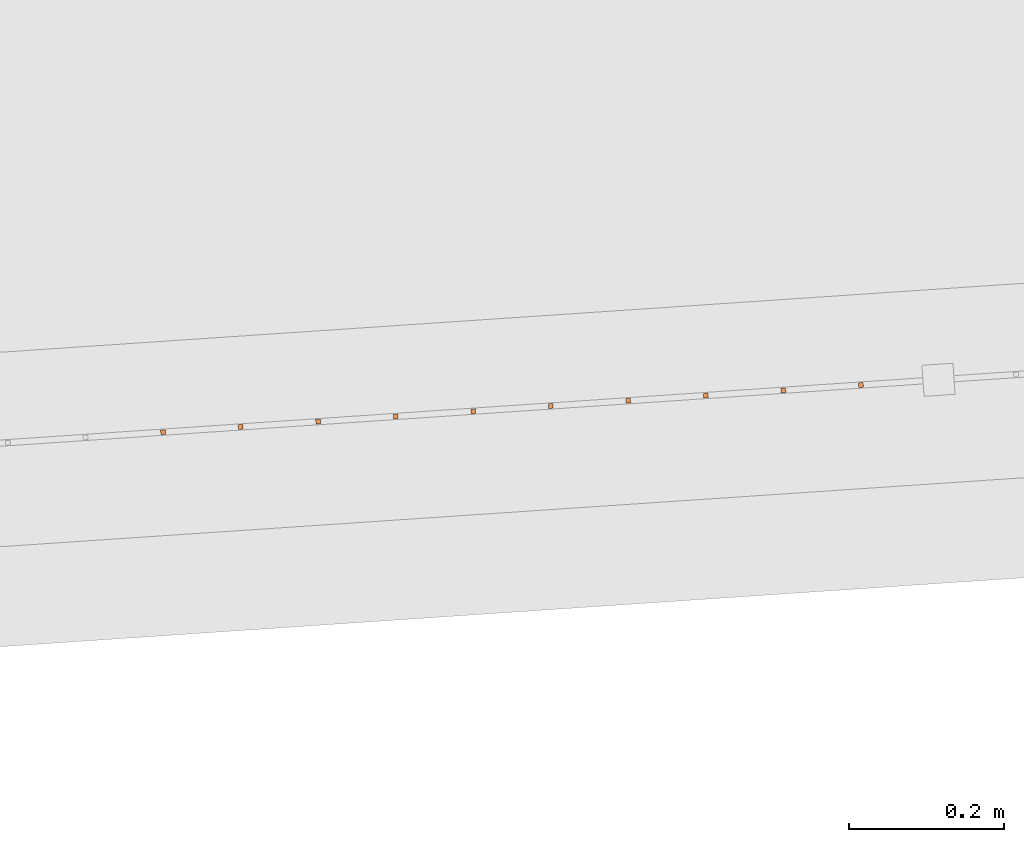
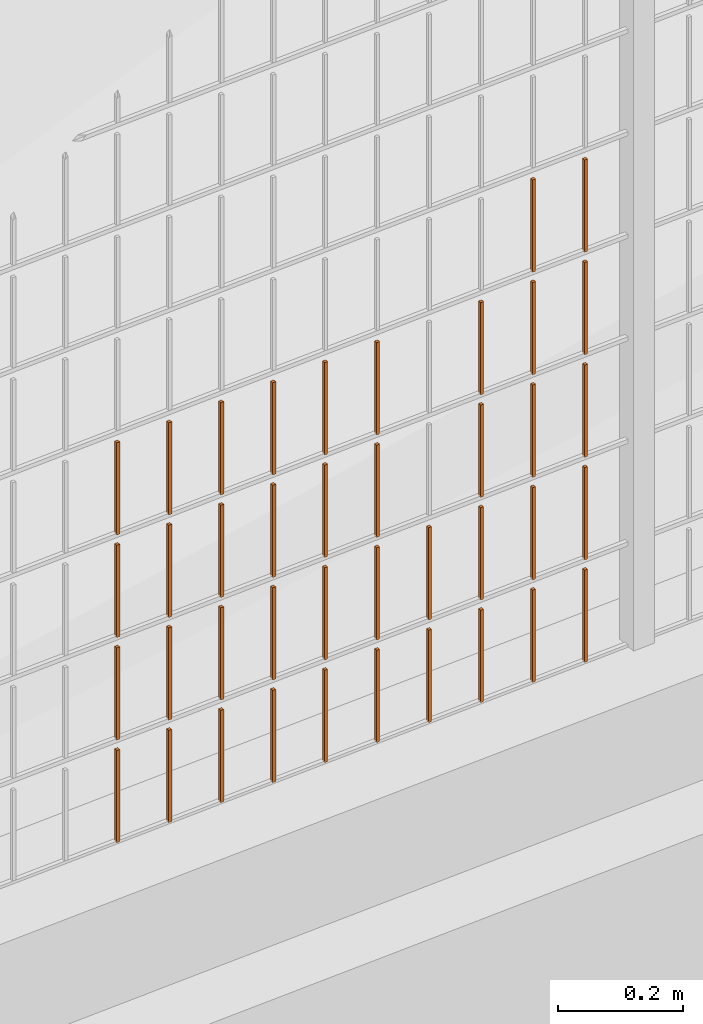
# One storey, part 80 of 1809: 40 proxies, 1 element without a shape of its own.
"""IFC2X3 building model written with IfcOpenShell, lengths in millimetres."""

from ifc_helpers import new_model, entity, si_unit, converted_unit, derived_unit, money_unit, direction, frame, origin_with_axes, place, context, subcontext, project, spatial, faceted_brep, source, transform, mapped, material, type_object, element, aggregate, save


model = new_model("IFC2X3")

# Units and contexts
model_context = context("Model", 3, precision=0.01, world=origin_with_axes(), true_north=direction((0.0, 1.0)))
body_context = subcontext(model_context, "Body", "Model", "MODEL_VIEW")
ifc_project = project(units=[si_unit("LENGTHUNIT", "METRE", prefix="MILLI"), si_unit("AREAUNIT", "SQUARE_METRE"), si_unit("VOLUMEUNIT", "CUBIC_METRE"), converted_unit("PLANEANGLEUNIT", "DEGREE", entity("IfcPlaneAngleMeasure", 0.0174532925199), si_unit("PLANEANGLEUNIT", "RADIAN"), dimensions=[0, 0, 0, 0, 0, 0, 0]), si_unit("SOLIDANGLEUNIT", "STERADIAN"), money_unit("EUR"), converted_unit("TIMEUNIT", "Year", entity("IfcTimeMeasure", 31556926.0), si_unit("TIMEUNIT", "SECOND"), dimensions=[0, 0, 1, 0, 0, 0, 0]), si_unit("MASSUNIT", "GRAM", prefix="KILO"), si_unit("THERMODYNAMICTEMPERATUREUNIT", "DEGREE_CELSIUS"), si_unit("LUMINOUSINTENSITYUNIT", "LUMEN"), si_unit("ENERGYUNIT", "JOULE", prefix="MEGA"), derived_unit("THERMALCONDUCTANCEUNIT", [(si_unit("POWERUNIT", "WATT"), 1), (si_unit("LENGTHUNIT", "METRE"), -1), (si_unit("THERMODYNAMICTEMPERATUREUNIT", "KELVIN"), -1)]), derived_unit("SPECIFICHEATCAPACITYUNIT", [(si_unit("ENERGYUNIT", "JOULE"), 1), (si_unit("MASSUNIT", "GRAM", prefix="KILO"), -1), (si_unit("THERMODYNAMICTEMPERATUREUNIT", "KELVIN"), -1)]), derived_unit("MASSDENSITYUNIT", [(si_unit("MASSUNIT", "GRAM", prefix="KILO"), 1), (si_unit("VOLUMEUNIT", "CUBIC_METRE"), -1)])], contexts=[model_context])

# Site, building, storey
site_placement = place(None, origin_with_axes())
site = spatial("IfcSite", under=ifc_project, at=site_placement, Name="Politse- ja Piirivalveameti ning Päästeameti ühishoone", CompositionType="ELEMENT")
building_placement = place(site_placement, origin_with_axes())
building = spatial("IfcBuilding", under=site, at=building_placement, Name="Politse- ja Piirivalveameti ning Päästeameti ühishoone", CompositionType="ELEMENT")
storey_placement = place(building_placement, origin_with_axes())
storey = spatial("IfcBuildingStorey", under=building, at=storey_placement, Name="Esimene korrus", CompositionType="ELEMENT", Elevation=0.0)

# Proxies
building_element_proxy_type_1 = type_object("IfcBuildingElementProxyType", Name="Railing Type", PredefinedType="NOTDEFINED")
proxy_1_placement = place(storey_placement, frame((89252.001212, -29183.4766571, 203.661247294), z_axis=(0.0, 0.0, 1.0), x_axis=(1.0, 0.0, 0.0)))
proxy_1 = element("IfcBuildingElementProxy", 1, at=proxy_1_placement, inside=storey, type_object=building_element_proxy_type_1, Name="PIIRDEAED")
ifc_material = material(Name="ET-03_Raud")
building_element_proxy_type_2 = type_object("IfcBuildingElementProxyType", Name="IfcBuildingElementProxy", PredefinedType="NOTDEFINED")
shared_shape_1 = source(origin_with_axes(), body_context, "Body", "Brep", [
    faceted_brep([(3.0, 3.0, -0.000752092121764), (-3.0, 3.0, -0.000752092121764), (-3.0, 3.0, 179.99926046), (3.0, 3.0, 179.99926046), (3.0, -3.0, 0.000752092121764), (-3.0, -3.0, 0.000752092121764), (-3.0, -3.0, 180.000764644), (3.0, -3.0, 180.000764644)], [[[0, 1, 2, 3]], [[0, 4, 5, 1]], [[1, 5, 6, 2]], [[3, 2, 6, 7]], [[4, 0, 3, 7]], [[5, 4, 7, 6]]]),
])
proxy_2_placement = place(proxy_1_placement, frame((-102193.823991, -24200.5819066, 801.556283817), z_axis=(0.0, 0.0, 1.0), x_axis=(1.0, 0.0, 0.0)))
proxy_2 = element("IfcBuildingElementProxy", 2, at=proxy_2_placement, type_object=building_element_proxy_type_2, material=ifc_material, Name="BALUSTER - 001", context=body_context, shape_type="MappedRepresentation", body=[
    mapped(shared_shape_1, transform((0.0, 0.0, 0.0), x_axis=(-0.0673926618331, 0.997726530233, 0.0), y_axis=(-0.997726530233, -0.0673926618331, 0.0), z_axis=(0.0, 0.0, 1.0))),
])
shared_shape_2 = source(origin_with_axes(), body_context, "Body", "Brep", [
    faceted_brep([(3.0, 3.0, -0.000752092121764), (-3.0, 3.0, -0.000752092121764), (-3.0, 3.0, 179.99926046), (3.0, 3.0, 179.99926046), (3.0, -3.0, 0.000752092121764), (-3.0, -3.0, 0.000752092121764), (-3.0, -3.0, 180.000764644), (3.0, -3.0, 180.000764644)], [[[0, 1, 2, 3]], [[0, 4, 5, 1]], [[1, 5, 6, 2]], [[3, 2, 6, 7]], [[4, 0, 3, 7]], [[5, 4, 7, 6]]]),
])
proxy_3_placement = place(proxy_1_placement, frame((-102193.823991, -24200.5819066, 201.556283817), z_axis=(0.0, 0.0, 1.0), x_axis=(1.0, 0.0, 0.0)))
proxy_3 = element("IfcBuildingElementProxy", 3, at=proxy_3_placement, type_object=building_element_proxy_type_2, material=ifc_material, Name="BALUSTER - 001", context=body_context, shape_type="MappedRepresentation", body=[
    mapped(shared_shape_2, transform((0.0, 0.0, 0.0), x_axis=(-0.0673926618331, 0.997726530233, 0.0), y_axis=(-0.997726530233, -0.0673926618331, 0.0), z_axis=(0.0, 0.0, 1.0))),
])
proxy_4_placement = place(proxy_1_placement, frame((-102692.687256, -24234.2782375, 201.43093513), z_axis=(0.0, 0.0, 1.0), x_axis=(1.0, 0.0, 0.0)))
proxy_4 = element("IfcBuildingElementProxy", 4, at=proxy_4_placement, type_object=building_element_proxy_type_2, material=ifc_material, Name="BALUSTER - 001", context=body_context, shape_type="MappedRepresentation", body=[
    mapped(shared_shape_2, transform((0.0, 0.0, 0.0), x_axis=(-0.0673926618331, 0.997726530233, 0.0), y_axis=(-0.997726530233, -0.0673926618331, 0.0), z_axis=(0.0, 0.0, 1.0))),
])
proxy_5_placement = place(proxy_1_placement, frame((-102792.459909, -24241.0175037, 201.405865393), z_axis=(0.0, 0.0, 1.0), x_axis=(1.0, 0.0, 0.0)))
proxy_5 = element("IfcBuildingElementProxy", 5, at=proxy_5_placement, type_object=building_element_proxy_type_2, material=ifc_material, Name="BALUSTER - 001", context=body_context, shape_type="MappedRepresentation", body=[
    mapped(shared_shape_2, transform((0.0, 0.0, 0.0), x_axis=(-0.0673926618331, 0.997726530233, 0.0), y_axis=(-0.997726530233, -0.0673926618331, 0.0), z_axis=(0.0, 0.0, 1.0))),
])
proxy_6_placement = place(proxy_1_placement, frame((-102193.823991, -24200.5819066, 401.556283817), z_axis=(0.0, 0.0, 1.0), x_axis=(1.0, 0.0, 0.0)))
proxy_6 = element("IfcBuildingElementProxy", 6, at=proxy_6_placement, type_object=building_element_proxy_type_2, material=ifc_material, Name="BALUSTER - 001", context=body_context, shape_type="MappedRepresentation", body=[
    mapped(shared_shape_2, transform((0.0, 0.0, 0.0), x_axis=(-0.0673926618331, 0.997726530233, 0.0), y_axis=(-0.997726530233, -0.0673926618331, 0.0), z_axis=(0.0, 0.0, 1.0))),
])
proxy_7_placement = place(proxy_1_placement, frame((-102592.914603, -24227.5389714, 401.456004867), z_axis=(0.0, 0.0, 1.0), x_axis=(1.0, 0.0, 0.0)))
proxy_7 = element("IfcBuildingElementProxy", 7, at=proxy_7_placement, type_object=building_element_proxy_type_2, material=ifc_material, Name="BALUSTER - 001", context=body_context, shape_type="MappedRepresentation", body=[
    mapped(shared_shape_2, transform((0.0, 0.0, 0.0), x_axis=(-0.0673926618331, 0.997726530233, 0.0), y_axis=(-0.997726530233, -0.0673926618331, 0.0), z_axis=(0.0, 0.0, 1.0))),
])
proxy_8_placement = place(proxy_1_placement, frame((-102692.687256, -24234.2782375, 401.43093513), z_axis=(0.0, 0.0, 1.0), x_axis=(1.0, 0.0, 0.0)))
proxy_8 = element("IfcBuildingElementProxy", 8, at=proxy_8_placement, type_object=building_element_proxy_type_2, material=ifc_material, Name="BALUSTER - 001", context=body_context, shape_type="MappedRepresentation", body=[
    mapped(shared_shape_2, transform((0.0, 0.0, 0.0), x_axis=(-0.0673926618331, 0.997726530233, 0.0), y_axis=(-0.997726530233, -0.0673926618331, 0.0), z_axis=(0.0, 0.0, 1.0))),
])
proxy_9_placement = place(proxy_1_placement, frame((-102592.914603, -24227.5389714, 601.456004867), z_axis=(0.0, 0.0, 1.0), x_axis=(1.0, 0.0, 0.0)))
proxy_9 = element("IfcBuildingElementProxy", 9, at=proxy_9_placement, type_object=building_element_proxy_type_2, material=ifc_material, Name="BALUSTER - 001", context=body_context, shape_type="MappedRepresentation", body=[
    mapped(shared_shape_2, transform((0.0, 0.0, 0.0), x_axis=(-0.0673926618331, 0.997726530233, 0.0), y_axis=(-0.997726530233, -0.0673926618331, 0.0), z_axis=(0.0, 0.0, 1.0))),
])
proxy_10_placement = place(proxy_1_placement, frame((-102692.687256, -24234.2782375, 601.43093513), z_axis=(0.0, 0.0, 1.0), x_axis=(1.0, 0.0, 0.0)))
proxy_10 = element("IfcBuildingElementProxy", 10, at=proxy_10_placement, type_object=building_element_proxy_type_2, material=ifc_material, Name="BALUSTER - 001", context=body_context, shape_type="MappedRepresentation", body=[
    mapped(shared_shape_2, transform((0.0, 0.0, 0.0), x_axis=(-0.0673926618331, 0.997726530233, 0.0), y_axis=(-0.997726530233, -0.0673926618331, 0.0), z_axis=(0.0, 0.0, 1.0))),
])
proxy_11_placement = place(proxy_1_placement, frame((-102792.459909, -24241.0175037, 601.405865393), z_axis=(0.0, 0.0, 1.0), x_axis=(1.0, 0.0, 0.0)))
proxy_11 = element("IfcBuildingElementProxy", 11, at=proxy_11_placement, type_object=building_element_proxy_type_2, material=ifc_material, Name="BALUSTER - 001", context=body_context, shape_type="MappedRepresentation", body=[
    mapped(shared_shape_2, transform((0.0, 0.0, 0.0), x_axis=(-0.0673926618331, 0.997726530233, 0.0), y_axis=(-0.997726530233, -0.0673926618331, 0.0), z_axis=(0.0, 0.0, 1.0))),
])
shared_shape_3 = source(origin_with_axes(), body_context, "Body", "Brep", [
    faceted_brep([(3.0, 3.0, -0.000752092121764), (-3.0, 3.0, -0.000752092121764), (-3.0, 3.0, 179.99926046), (3.0, 3.0, 179.99926046), (3.0, -3.0, 0.000752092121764), (-3.0, -3.0, 0.000752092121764), (-3.0, -3.0, 180.000764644), (3.0, -3.0, 180.000764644)], [[[0, 1, 2, 3]], [[0, 4, 5, 1]], [[1, 5, 6, 2]], [[3, 2, 6, 7]], [[4, 0, 3, 7]], [[5, 4, 7, 6]]]),
])
proxy_12_placement = place(proxy_1_placement, frame((-102592.914603, -24227.5389714, 1.45600486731), z_axis=(0.0, 0.0, 1.0), x_axis=(1.0, 0.0, 0.0)))
proxy_12 = element("IfcBuildingElementProxy", 12, at=proxy_12_placement, type_object=building_element_proxy_type_2, material=ifc_material, Name="BALUSTER - 001", context=body_context, shape_type="MappedRepresentation", body=[
    mapped(shared_shape_3, transform((0.0, 0.0, 0.0), x_axis=(-0.0673926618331, 0.997726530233, 0.0), y_axis=(-0.997726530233, -0.0673926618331, 0.0), z_axis=(0.0, 0.0, 1.0))),
])
shared_shape_4 = source(origin_with_axes(), body_context, "Body", "Brep", [
    faceted_brep([(3.0, 3.0, -0.000752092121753), (-3.0, 3.0, -0.000752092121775), (-3.0, 3.0, 179.99926046), (3.0, 3.0, 179.99926046), (3.0, -3.0, 0.000752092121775), (-3.0, -3.0, 0.000752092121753), (-3.0, -3.0, 180.000764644), (3.0, -3.0, 180.000764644)], [[[0, 1, 2, 3]], [[0, 4, 5, 1]], [[1, 5, 6, 2]], [[3, 2, 6, 7]], [[4, 0, 3, 7]], [[5, 4, 7, 6]]]),
])
proxy_13_placement = place(proxy_1_placement, frame((-102393.369297, -24214.060439, 1.5061443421), z_axis=(0.0, 0.0, 1.0), x_axis=(1.0, 0.0, 0.0)))
proxy_13 = element("IfcBuildingElementProxy", 13, at=proxy_13_placement, type_object=building_element_proxy_type_2, material=ifc_material, Name="BALUSTER - 001", context=body_context, shape_type="MappedRepresentation", body=[
    mapped(shared_shape_4, transform((0.0, 0.0, 0.0), x_axis=(-0.0673926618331, 0.997726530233, 0.0), y_axis=(-0.997726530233, -0.0673926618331, 0.0), z_axis=(0.0, 0.0, 1.0))),
])
proxy_14_placement = place(proxy_1_placement, frame((-103091.777868, -24261.2353023, 1.33065618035), z_axis=(0.0, 0.0, 1.0), x_axis=(1.0, 0.0, 0.0)))
proxy_14 = element("IfcBuildingElementProxy", 14, at=proxy_14_placement, type_object=building_element_proxy_type_2, material=ifc_material, Name="BALUSTER - 001", context=body_context, shape_type="MappedRepresentation", body=[
    mapped(shared_shape_4, transform((0.0, 0.0, 0.0), x_axis=(-0.0673926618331, 0.997726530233, 0.0), y_axis=(-0.997726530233, -0.0673926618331, 0.0), z_axis=(0.0, 0.0, 1.0))),
])
proxy_15_placement = place(proxy_1_placement, frame((-103091.777868, -24261.2353023, 201.33065618), z_axis=(0.0, 0.0, 1.0), x_axis=(1.0, 0.0, 0.0)))
proxy_15 = element("IfcBuildingElementProxy", 15, at=proxy_15_placement, type_object=building_element_proxy_type_2, material=ifc_material, Name="BALUSTER - 001", context=body_context, shape_type="MappedRepresentation", body=[
    mapped(shared_shape_4, transform((0.0, 0.0, 0.0), x_axis=(-0.0673926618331, 0.997726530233, 0.0), y_axis=(-0.997726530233, -0.0673926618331, 0.0), z_axis=(0.0, 0.0, 1.0))),
])
shared_shape_5 = source(origin_with_axes(), body_context, "Body", "Brep", [
    faceted_brep([(3.0, 3.0, -0.000752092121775), (-3.0, 3.0, -0.000752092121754), (-3.0, 3.0, 179.99926046), (3.0, 3.0, 179.99926046), (3.0, -3.0, 0.000752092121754), (-3.0, -3.0, 0.000752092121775), (-3.0, -3.0, 180.000764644), (3.0, -3.0, 180.000764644)], [[[0, 1, 2, 3]], [[0, 4, 5, 1]], [[1, 5, 6, 2]], [[3, 2, 6, 7]], [[4, 0, 3, 7]], [[5, 4, 7, 6]]]),
])
proxy_16_placement = place(proxy_1_placement, frame((-102892.232562, -24247.7567699, 401.380795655), z_axis=(0.0, 0.0, 1.0), x_axis=(1.0, 0.0, 0.0)))
proxy_16 = element("IfcBuildingElementProxy", 16, at=proxy_16_placement, type_object=building_element_proxy_type_2, material=ifc_material, Name="BALUSTER - 001", context=body_context, shape_type="MappedRepresentation", body=[
    mapped(shared_shape_5, transform((0.0, 0.0, 0.0), x_axis=(-0.0673926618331, 0.997726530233, 0.0), y_axis=(-0.997726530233, -0.0673926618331, 0.0), z_axis=(0.0, 0.0, 1.0))),
])
shared_shape_6 = source(origin_with_axes(), body_context, "Body", "Brep", [
    faceted_brep([(3.0, 3.0, -0.000752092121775), (-3.0, 3.0, -0.000752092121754), (-3.0, 3.0, 179.99926046), (3.0, 3.0, 179.99926046), (3.0, -3.0, 0.000752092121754), (-3.0, -3.0, 0.000752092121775), (-3.0, -3.0, 180.000764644), (3.0, -3.0, 180.000764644)], [[[0, 1, 2, 3]], [[0, 4, 5, 1]], [[1, 5, 6, 2]], [[3, 2, 6, 7]], [[4, 0, 3, 7]], [[5, 4, 7, 6]]]),
])
proxy_17_placement = place(proxy_1_placement, frame((-102892.232562, -24247.7567699, 601.380795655), z_axis=(0.0, 0.0, 1.0), x_axis=(1.0, 0.0, 0.0)))
proxy_17 = element("IfcBuildingElementProxy", 17, at=proxy_17_placement, type_object=building_element_proxy_type_2, material=ifc_material, Name="BALUSTER - 001", context=body_context, shape_type="MappedRepresentation", body=[
    mapped(shared_shape_6, transform((0.0, 0.0, 0.0), x_axis=(-0.0673926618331, 0.997726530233, 0.0), y_axis=(-0.997726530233, -0.0673926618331, 0.0), z_axis=(0.0, 0.0, 1.0))),
])
shared_shape_7 = source(origin_with_axes(), body_context, "Body", "Brep", [
    faceted_brep([(3.0, 3.0, -0.000752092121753), (-3.0, 3.0, -0.000752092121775), (-3.0, 3.0, 179.99926046), (3.0, 3.0, 179.99926046), (3.0, -3.0, 0.000752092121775), (-3.0, -3.0, 0.000752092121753), (-3.0, -3.0, 180.000764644), (3.0, -3.0, 180.000764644)], [[[0, 1, 2, 3]], [[0, 4, 5, 1]], [[1, 5, 6, 2]], [[3, 2, 6, 7]], [[4, 0, 3, 7]], [[5, 4, 7, 6]]]),
])
proxy_18_placement = place(proxy_1_placement, frame((-103091.777868, -24261.2353023, 401.33065618), z_axis=(0.0, 0.0, 1.0), x_axis=(1.0, 0.0, 0.0)))
proxy_18 = element("IfcBuildingElementProxy", 18, at=proxy_18_placement, type_object=building_element_proxy_type_2, material=ifc_material, Name="BALUSTER - 001", context=body_context, shape_type="MappedRepresentation", body=[
    mapped(shared_shape_7, transform((0.0, 0.0, 0.0), x_axis=(-0.0673926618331, 0.997726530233, 0.0), y_axis=(-0.997726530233, -0.0673926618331, 0.0), z_axis=(0.0, 0.0, 1.0))),
])
shared_shape_8 = source(origin_with_axes(), body_context, "Body", "Brep", [
    faceted_brep([(3.0, 3.0, -0.000752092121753), (-3.0, 3.0, -0.000752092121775), (-3.0, 3.0, 179.99926046), (3.0, 3.0, 179.99926046), (3.0, -3.0, 0.000752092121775), (-3.0, -3.0, 0.000752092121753), (-3.0, -3.0, 180.000764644), (3.0, -3.0, 180.000764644)], [[[0, 1, 2, 3]], [[0, 4, 5, 1]], [[1, 5, 6, 2]], [[3, 2, 6, 7]], [[4, 0, 3, 7]], [[5, 4, 7, 6]]]),
])
proxy_19_placement = place(proxy_1_placement, frame((-102293.596644, -24207.3211728, 801.531214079), z_axis=(0.0, 0.0, 1.0), x_axis=(1.0, 0.0, 0.0)))
proxy_19 = element("IfcBuildingElementProxy", 19, at=proxy_19_placement, type_object=building_element_proxy_type_2, material=ifc_material, Name="BALUSTER - 001", context=body_context, shape_type="MappedRepresentation", body=[
    mapped(shared_shape_8, transform((0.0, 0.0, 0.0), x_axis=(-0.0673926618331, 0.997726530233, 0.0), y_axis=(-0.997726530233, -0.0673926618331, 0.0), z_axis=(0.0, 0.0, 1.0))),
])
shared_shape_9 = source(origin_with_axes(), body_context, "Body", "Brep", [
    faceted_brep([(3.0, 3.0, -0.000752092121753), (-3.0, 3.0, -0.000752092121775), (-3.0, 3.0, 179.99926046), (3.0, 3.0, 179.99926046), (3.0, -3.0, 0.000752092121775), (-3.0, -3.0, 0.000752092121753), (-3.0, -3.0, 180.000764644), (3.0, -3.0, 180.000764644)], [[[0, 1, 2, 3]], [[0, 4, 5, 1]], [[1, 5, 6, 2]], [[3, 2, 6, 7]], [[4, 0, 3, 7]], [[5, 4, 7, 6]]]),
])
proxy_20_placement = place(proxy_1_placement, frame((-102293.596644, -24207.3211728, 1.53121407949), z_axis=(0.0, 0.0, 1.0), x_axis=(1.0, 0.0, 0.0)))
proxy_20 = element("IfcBuildingElementProxy", 20, at=proxy_20_placement, type_object=building_element_proxy_type_2, material=ifc_material, Name="BALUSTER - 001", context=body_context, shape_type="MappedRepresentation", body=[
    mapped(shared_shape_9, transform((0.0, 0.0, 0.0), x_axis=(-0.0673926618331, 0.997726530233, 0.0), y_axis=(-0.997726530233, -0.0673926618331, 0.0), z_axis=(0.0, 0.0, 1.0))),
])
shared_shape_10 = source(origin_with_axes(), body_context, "Body", "Brep", [
    faceted_brep([(3.0, 3.0, -0.000752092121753), (-3.0, 3.0, -0.000752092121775), (-3.0, 3.0, 179.99926046), (3.0, 3.0, 179.99926046), (3.0, -3.0, 0.000752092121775), (-3.0, -3.0, 0.000752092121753), (-3.0, -3.0, 180.000764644), (3.0, -3.0, 180.000764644)], [[[0, 1, 2, 3]], [[0, 4, 5, 1]], [[1, 5, 6, 2]], [[3, 2, 6, 7]], [[4, 0, 3, 7]], [[5, 4, 7, 6]]]),
])
proxy_21_placement = place(proxy_1_placement, frame((-102992.005215, -24254.4960361, 1.35572591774), z_axis=(0.0, 0.0, 1.0), x_axis=(1.0, 0.0, 0.0)))
proxy_21 = element("IfcBuildingElementProxy", 21, at=proxy_21_placement, type_object=building_element_proxy_type_2, material=ifc_material, Name="BALUSTER - 001", context=body_context, shape_type="MappedRepresentation", body=[
    mapped(shared_shape_10, transform((0.0, 0.0, 0.0), x_axis=(-0.0673926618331, 0.997726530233, 0.0), y_axis=(-0.997726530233, -0.0673926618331, 0.0), z_axis=(0.0, 0.0, 1.0))),
])
shared_shape_11 = source(origin_with_axes(), body_context, "Body", "Brep", [
    faceted_brep([(3.0, 3.0, -0.000752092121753), (-3.0, 3.0, -0.000752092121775), (-3.0, 3.0, 179.99926046), (3.0, 3.0, 179.99926046), (3.0, -3.0, 0.000752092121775), (-3.0, -3.0, 0.000752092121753), (-3.0, -3.0, 180.000764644), (3.0, -3.0, 180.000764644)], [[[0, 1, 2, 3]], [[0, 4, 5, 1]], [[1, 5, 6, 2]], [[3, 2, 6, 7]], [[4, 0, 3, 7]], [[5, 4, 7, 6]]]),
])
proxy_22_placement = place(proxy_1_placement, frame((-102293.596644, -24207.3211728, 401.531214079), z_axis=(0.0, 0.0, 1.0), x_axis=(1.0, 0.0, 0.0)))
proxy_22 = element("IfcBuildingElementProxy", 22, at=proxy_22_placement, type_object=building_element_proxy_type_2, material=ifc_material, Name="BALUSTER - 001", context=body_context, shape_type="MappedRepresentation", body=[
    mapped(shared_shape_11, transform((0.0, 0.0, 0.0), x_axis=(-0.0673926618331, 0.997726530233, 0.0), y_axis=(-0.997726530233, -0.0673926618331, 0.0), z_axis=(0.0, 0.0, 1.0))),
])
proxy_23_placement = place(proxy_1_placement, frame((-102393.369297, -24214.060439, 401.506144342), z_axis=(0.0, 0.0, 1.0), x_axis=(1.0, 0.0, 0.0)))
proxy_23 = element("IfcBuildingElementProxy", 23, at=proxy_23_placement, type_object=building_element_proxy_type_2, material=ifc_material, Name="BALUSTER - 001", context=body_context, shape_type="MappedRepresentation", body=[
    mapped(shared_shape_11, transform((0.0, 0.0, 0.0), x_axis=(-0.0673926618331, 0.997726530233, 0.0), y_axis=(-0.997726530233, -0.0673926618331, 0.0), z_axis=(0.0, 0.0, 1.0))),
])
proxy_24_placement = place(proxy_1_placement, frame((-102293.596644, -24207.3211728, 601.531214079), z_axis=(0.0, 0.0, 1.0), x_axis=(1.0, 0.0, 0.0)))
proxy_24 = element("IfcBuildingElementProxy", 24, at=proxy_24_placement, type_object=building_element_proxy_type_2, material=ifc_material, Name="BALUSTER - 001", context=body_context, shape_type="MappedRepresentation", body=[
    mapped(shared_shape_11, transform((0.0, 0.0, 0.0), x_axis=(-0.0673926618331, 0.997726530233, 0.0), y_axis=(-0.997726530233, -0.0673926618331, 0.0), z_axis=(0.0, 0.0, 1.0))),
])
proxy_25_placement = place(proxy_1_placement, frame((-102393.369297, -24214.060439, 601.506144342), z_axis=(0.0, 0.0, 1.0), x_axis=(1.0, 0.0, 0.0)))
proxy_25 = element("IfcBuildingElementProxy", 25, at=proxy_25_placement, type_object=building_element_proxy_type_2, material=ifc_material, Name="BALUSTER - 001", context=body_context, shape_type="MappedRepresentation", body=[
    mapped(shared_shape_11, transform((0.0, 0.0, 0.0), x_axis=(-0.0673926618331, 0.997726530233, 0.0), y_axis=(-0.997726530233, -0.0673926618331, 0.0), z_axis=(0.0, 0.0, 1.0))),
])
proxy_26_placement = place(proxy_1_placement, frame((-103091.777868, -24261.2353023, 601.33065618), z_axis=(0.0, 0.0, 1.0), x_axis=(1.0, 0.0, 0.0)))
proxy_26 = element("IfcBuildingElementProxy", 26, at=proxy_26_placement, type_object=building_element_proxy_type_2, material=ifc_material, Name="BALUSTER - 001", context=body_context, shape_type="MappedRepresentation", body=[
    mapped(shared_shape_11, transform((0.0, 0.0, 0.0), x_axis=(-0.0673926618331, 0.997726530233, 0.0), y_axis=(-0.997726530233, -0.0673926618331, 0.0), z_axis=(0.0, 0.0, 1.0))),
])
shared_shape_12 = source(origin_with_axes(), body_context, "Body", "Brep", [
    faceted_brep([(3.0, 3.0, -0.000752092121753), (-3.0, 3.0, -0.000752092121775), (-3.0, 3.0, 179.99926046), (3.0, 3.0, 179.99926046), (3.0, -3.0, 0.000752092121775), (-3.0, -3.0, 0.000752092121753), (-3.0, -3.0, 180.000764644), (3.0, -3.0, 180.000764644)], [[[0, 1, 2, 3]], [[0, 4, 5, 1]], [[1, 5, 6, 2]], [[3, 2, 6, 7]], [[4, 0, 3, 7]], [[5, 4, 7, 6]]]),
])
proxy_27_placement = place(proxy_1_placement, frame((-102992.005215, -24254.4960361, 401.355725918), z_axis=(0.0, 0.0, 1.0), x_axis=(1.0, 0.0, 0.0)))
proxy_27 = element("IfcBuildingElementProxy", 27, at=proxy_27_placement, type_object=building_element_proxy_type_2, material=ifc_material, Name="BALUSTER - 001", context=body_context, shape_type="MappedRepresentation", body=[
    mapped(shared_shape_12, transform((0.0, 0.0, 0.0), x_axis=(-0.0673926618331, 0.997726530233, 0.0), y_axis=(-0.997726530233, -0.0673926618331, 0.0), z_axis=(0.0, 0.0, 1.0))),
])
proxy_28_placement = place(proxy_1_placement, frame((-102992.005215, -24254.4960361, 601.355725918), z_axis=(0.0, 0.0, 1.0), x_axis=(1.0, 0.0, 0.0)))
proxy_28 = element("IfcBuildingElementProxy", 28, at=proxy_28_placement, type_object=building_element_proxy_type_2, material=ifc_material, Name="BALUSTER - 001", context=body_context, shape_type="MappedRepresentation", body=[
    mapped(shared_shape_12, transform((0.0, 0.0, 0.0), x_axis=(-0.0673926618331, 0.997726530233, 0.0), y_axis=(-0.997726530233, -0.0673926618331, 0.0), z_axis=(0.0, 0.0, 1.0))),
])
shared_shape_13 = source(origin_with_axes(), body_context, "Body", "Brep", [
    faceted_brep([(3.0, 3.0, -0.000752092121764), (-3.0, 3.0, -0.000752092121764), (-3.0, 3.0, 179.99926046), (3.0, 3.0, 179.99926046), (3.0, -3.0, 0.000752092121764), (-3.0, -3.0, 0.000752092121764), (-3.0, -3.0, 180.000764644), (3.0, -3.0, 180.000764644)], [[[0, 1, 2, 3]], [[0, 4, 5, 1]], [[1, 5, 6, 2]], [[3, 2, 6, 7]], [[4, 0, 3, 7]], [[5, 4, 7, 6]]]),
])
proxy_29_placement = place(proxy_1_placement, frame((-102792.459909, -24241.0175037, 1.40586539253), z_axis=(0.0, 0.0, 1.0), x_axis=(1.0, 0.0, 0.0)))
proxy_29 = element("IfcBuildingElementProxy", 29, at=proxy_29_placement, type_object=building_element_proxy_type_2, material=ifc_material, Name="BALUSTER - 001", context=body_context, shape_type="MappedRepresentation", body=[
    mapped(shared_shape_13, transform((0.0, 0.0, 0.0), x_axis=(-0.0673926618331, 0.997726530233, 0.0), y_axis=(-0.997726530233, -0.0673926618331, 0.0), z_axis=(0.0, 0.0, 1.0))),
])
shared_shape_14 = source(origin_with_axes(), body_context, "Body", "Brep", [
    faceted_brep([(3.0, 3.0, -0.000752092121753), (-3.0, 3.0, -0.000752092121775), (-3.0, 3.0, 179.99926046), (3.0, 3.0, 179.99926046), (3.0, -3.0, 0.000752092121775), (-3.0, -3.0, 0.000752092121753), (-3.0, -3.0, 180.000764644), (3.0, -3.0, 180.000764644)], [[[0, 1, 2, 3]], [[0, 4, 5, 1]], [[1, 5, 6, 2]], [[3, 2, 6, 7]], [[4, 0, 3, 7]], [[5, 4, 7, 6]]]),
])
proxy_30_placement = place(proxy_1_placement, frame((-102293.596644, -24207.3211728, 201.531214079), z_axis=(0.0, 0.0, 1.0), x_axis=(1.0, 0.0, 0.0)))
proxy_30 = element("IfcBuildingElementProxy", 30, at=proxy_30_placement, type_object=building_element_proxy_type_2, material=ifc_material, Name="BALUSTER - 001", context=body_context, shape_type="MappedRepresentation", body=[
    mapped(shared_shape_14, transform((0.0, 0.0, 0.0), x_axis=(-0.0673926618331, 0.997726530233, 0.0), y_axis=(-0.997726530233, -0.0673926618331, 0.0), z_axis=(0.0, 0.0, 1.0))),
])
proxy_31_placement = place(proxy_1_placement, frame((-102393.369297, -24214.060439, 201.506144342), z_axis=(0.0, 0.0, 1.0), x_axis=(1.0, 0.0, 0.0)))
proxy_31 = element("IfcBuildingElementProxy", 31, at=proxy_31_placement, type_object=building_element_proxy_type_2, material=ifc_material, Name="BALUSTER - 001", context=body_context, shape_type="MappedRepresentation", body=[
    mapped(shared_shape_14, transform((0.0, 0.0, 0.0), x_axis=(-0.0673926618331, 0.997726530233, 0.0), y_axis=(-0.997726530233, -0.0673926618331, 0.0), z_axis=(0.0, 0.0, 1.0))),
])
shared_shape_15 = source(origin_with_axes(), body_context, "Body", "Brep", [
    faceted_brep([(3.0, 3.0, -0.000752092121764), (-3.0, 3.0, -0.000752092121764), (-3.0, 3.0, 179.99926046), (3.0, 3.0, 179.99926046), (3.0, -3.0, 0.000752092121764), (-3.0, -3.0, 0.000752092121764), (-3.0, -3.0, 180.000764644), (3.0, -3.0, 180.000764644)], [[[0, 1, 2, 3]], [[0, 4, 5, 1]], [[1, 5, 6, 2]], [[3, 2, 6, 7]], [[4, 0, 3, 7]], [[5, 4, 7, 6]]]),
])
proxy_32_placement = place(proxy_1_placement, frame((-102592.914603, -24227.5389714, 201.456004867), z_axis=(0.0, 0.0, 1.0), x_axis=(1.0, 0.0, 0.0)))
proxy_32 = element("IfcBuildingElementProxy", 32, at=proxy_32_placement, type_object=building_element_proxy_type_2, material=ifc_material, Name="BALUSTER - 001", context=body_context, shape_type="MappedRepresentation", body=[
    mapped(shared_shape_15, transform((0.0, 0.0, 0.0), x_axis=(-0.0673926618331, 0.997726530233, 0.0), y_axis=(-0.997726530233, -0.0673926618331, 0.0), z_axis=(0.0, 0.0, 1.0))),
])
proxy_33_placement = place(proxy_1_placement, frame((-102792.459909, -24241.0175037, 401.405865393), z_axis=(0.0, 0.0, 1.0), x_axis=(1.0, 0.0, 0.0)))
proxy_33 = element("IfcBuildingElementProxy", 33, at=proxy_33_placement, type_object=building_element_proxy_type_2, material=ifc_material, Name="BALUSTER - 001", context=body_context, shape_type="MappedRepresentation", body=[
    mapped(shared_shape_15, transform((0.0, 0.0, 0.0), x_axis=(-0.0673926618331, 0.997726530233, 0.0), y_axis=(-0.997726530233, -0.0673926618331, 0.0), z_axis=(0.0, 0.0, 1.0))),
])
proxy_34_placement = place(proxy_1_placement, frame((-102193.823991, -24200.5819066, 601.556283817), z_axis=(0.0, 0.0, 1.0), x_axis=(1.0, 0.0, 0.0)))
proxy_34 = element("IfcBuildingElementProxy", 34, at=proxy_34_placement, type_object=building_element_proxy_type_2, material=ifc_material, Name="BALUSTER - 001", context=body_context, shape_type="MappedRepresentation", body=[
    mapped(shared_shape_15, transform((0.0, 0.0, 0.0), x_axis=(-0.0673926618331, 0.997726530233, 0.0), y_axis=(-0.997726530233, -0.0673926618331, 0.0), z_axis=(0.0, 0.0, 1.0))),
])
shared_shape_16 = source(origin_with_axes(), body_context, "Body", "Brep", [
    faceted_brep([(3.0, 3.0, -0.000752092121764), (-3.0, 3.0, -0.000752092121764), (-3.0, 3.0, 179.99926046), (3.0, 3.0, 179.99926046), (3.0, -3.0, 0.000752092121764), (-3.0, -3.0, 0.000752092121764), (-3.0, -3.0, 180.000764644), (3.0, -3.0, 180.000764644)], [[[0, 1, 2, 3]], [[0, 4, 5, 1]], [[1, 5, 6, 2]], [[3, 2, 6, 7]], [[4, 0, 3, 7]], [[5, 4, 7, 6]]]),
])
proxy_35_placement = place(proxy_1_placement, frame((-102193.823991, -24200.5819066, 1.55628381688), z_axis=(0.0, 0.0, 1.0), x_axis=(1.0, 0.0, 0.0)))
proxy_35 = element("IfcBuildingElementProxy", 35, at=proxy_35_placement, type_object=building_element_proxy_type_2, material=ifc_material, Name="BALUSTER - 001", context=body_context, shape_type="MappedRepresentation", body=[
    mapped(shared_shape_16, transform((0.0, 0.0, 0.0), x_axis=(-0.0673926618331, 0.997726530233, 0.0), y_axis=(-0.997726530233, -0.0673926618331, 0.0), z_axis=(0.0, 0.0, 1.0))),
])
proxy_36_placement = place(proxy_1_placement, frame((-102692.687256, -24234.2782375, 1.43093512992), z_axis=(0.0, 0.0, 1.0), x_axis=(1.0, 0.0, 0.0)))
proxy_36 = element("IfcBuildingElementProxy", 36, at=proxy_36_placement, type_object=building_element_proxy_type_2, material=ifc_material, Name="BALUSTER - 001", context=body_context, shape_type="MappedRepresentation", body=[
    mapped(shared_shape_16, transform((0.0, 0.0, 0.0), x_axis=(-0.0673926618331, 0.997726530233, 0.0), y_axis=(-0.997726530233, -0.0673926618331, 0.0), z_axis=(0.0, 0.0, 1.0))),
])
shared_shape_17 = source(origin_with_axes(), body_context, "Body", "Brep", [
    faceted_brep([(3.0, 3.0, -0.000752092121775), (-3.0, 3.0, -0.000752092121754), (-3.0, 3.0, 179.99926046), (3.0, 3.0, 179.99926046), (3.0, -3.0, 0.000752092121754), (-3.0, -3.0, 0.000752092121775), (-3.0, -3.0, 180.000764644), (3.0, -3.0, 180.000764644)], [[[0, 1, 2, 3]], [[0, 4, 5, 1]], [[1, 5, 6, 2]], [[3, 2, 6, 7]], [[4, 0, 3, 7]], [[5, 4, 7, 6]]]),
])
proxy_37_placement = place(proxy_1_placement, frame((-102892.232562, -24247.7567699, 1.38079565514), z_axis=(0.0, 0.0, 1.0), x_axis=(1.0, 0.0, 0.0)))
proxy_37 = element("IfcBuildingElementProxy", 37, at=proxy_37_placement, type_object=building_element_proxy_type_2, material=ifc_material, Name="BALUSTER - 001", context=body_context, shape_type="MappedRepresentation", body=[
    mapped(shared_shape_17, transform((0.0, 0.0, 0.0), x_axis=(-0.0673926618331, 0.997726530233, 0.0), y_axis=(-0.997726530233, -0.0673926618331, 0.0), z_axis=(0.0, 0.0, 1.0))),
])
shared_shape_18 = source(origin_with_axes(), body_context, "Body", "Brep", [
    faceted_brep([(3.0, 3.0, -0.000752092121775), (-3.0, 3.0, -0.000752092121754), (-3.0, 3.0, 179.99926046), (3.0, 3.0, 179.99926046), (3.0, -3.0, 0.000752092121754), (-3.0, -3.0, 0.000752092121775), (-3.0, -3.0, 180.000764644), (3.0, -3.0, 180.000764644)], [[[0, 1, 2, 3]], [[0, 4, 5, 1]], [[1, 5, 6, 2]], [[3, 2, 6, 7]], [[4, 0, 3, 7]], [[5, 4, 7, 6]]]),
])
proxy_38_placement = place(proxy_1_placement, frame((-102892.232562, -24247.7567699, 201.380795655), z_axis=(0.0, 0.0, 1.0), x_axis=(1.0, 0.0, 0.0)))
proxy_38 = element("IfcBuildingElementProxy", 38, at=proxy_38_placement, type_object=building_element_proxy_type_2, material=ifc_material, Name="BALUSTER - 001", context=body_context, shape_type="MappedRepresentation", body=[
    mapped(shared_shape_18, transform((0.0, 0.0, 0.0), x_axis=(-0.0673926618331, 0.997726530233, 0.0), y_axis=(-0.997726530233, -0.0673926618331, 0.0), z_axis=(0.0, 0.0, 1.0))),
])
shared_shape_19 = source(origin_with_axes(), body_context, "Body", "Brep", [
    faceted_brep([(3.0, 3.0, -0.000752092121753), (-3.0, 3.0, -0.000752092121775), (-3.0, 3.0, 179.99926046), (3.0, 3.0, 179.99926046), (3.0, -3.0, 0.000752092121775), (-3.0, -3.0, 0.000752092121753), (-3.0, -3.0, 180.000764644), (3.0, -3.0, 180.000764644)], [[[0, 1, 2, 3]], [[0, 4, 5, 1]], [[1, 5, 6, 2]], [[3, 2, 6, 7]], [[4, 0, 3, 7]], [[5, 4, 7, 6]]]),
])
proxy_39_placement = place(proxy_1_placement, frame((-102992.005215, -24254.4960361, 201.355725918), z_axis=(0.0, 0.0, 1.0), x_axis=(1.0, 0.0, 0.0)))
proxy_39 = element("IfcBuildingElementProxy", 39, at=proxy_39_placement, type_object=building_element_proxy_type_2, material=ifc_material, Name="BALUSTER - 001", context=body_context, shape_type="MappedRepresentation", body=[
    mapped(shared_shape_19, transform((0.0, 0.0, 0.0), x_axis=(-0.0673926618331, 0.997726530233, 0.0), y_axis=(-0.997726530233, -0.0673926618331, 0.0), z_axis=(0.0, 0.0, 1.0))),
])
shared_shape_20 = source(origin_with_axes(), body_context, "Body", "Brep", [
    faceted_brep([(3.0, 3.0, -0.000752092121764), (-3.0, 3.0, -0.000752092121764), (-3.0, 3.0, 179.99926046), (3.0, 3.0, 179.99926046), (3.0, -3.0, 0.000752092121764), (-3.0, -3.0, 0.000752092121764), (-3.0, -3.0, 180.000764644), (3.0, -3.0, 180.000764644)], [[[0, 1, 2, 3]], [[0, 4, 5, 1]], [[1, 5, 6, 2]], [[3, 2, 6, 7]], [[4, 0, 3, 7]], [[5, 4, 7, 6]]]),
])
proxy_40_placement = place(proxy_1_placement, frame((-102493.14195, -24220.7997052, 1.4810746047), z_axis=(0.0, 0.0, 1.0), x_axis=(1.0, 0.0, 0.0)))
proxy_40 = element("IfcBuildingElementProxy", 40, at=proxy_40_placement, type_object=building_element_proxy_type_2, material=ifc_material, Name="BALUSTER - 001", context=body_context, shape_type="MappedRepresentation", body=[
    mapped(shared_shape_20, transform((0.0, 0.0, 0.0), x_axis=(-0.0673926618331, 0.997726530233, 0.0), y_axis=(-0.997726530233, -0.0673926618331, 0.0), z_axis=(0.0, 0.0, 1.0))),
])
proxy_41_placement = place(proxy_1_placement, frame((-102493.14195, -24220.7997052, 201.481074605), z_axis=(0.0, 0.0, 1.0), x_axis=(1.0, 0.0, 0.0)))
proxy_41 = element("IfcBuildingElementProxy", 41, at=proxy_41_placement, type_object=building_element_proxy_type_2, material=ifc_material, Name="BALUSTER - 001", context=body_context, shape_type="MappedRepresentation", body=[
    mapped(shared_shape_20, transform((0.0, 0.0, 0.0), x_axis=(-0.0673926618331, 0.997726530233, 0.0), y_axis=(-0.997726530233, -0.0673926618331, 0.0), z_axis=(0.0, 0.0, 1.0))),
])
aggregate(proxy_1, [proxy_35, proxy_20, proxy_13, proxy_40, proxy_12, proxy_36, proxy_29, proxy_37, proxy_21, proxy_14, proxy_3, proxy_30, proxy_31, proxy_41, proxy_32, proxy_4, proxy_5, proxy_38, proxy_39, proxy_15, proxy_6, proxy_22, proxy_23, proxy_7, proxy_8, proxy_33, proxy_16, proxy_27, proxy_18, proxy_34, proxy_24, proxy_25, proxy_9, proxy_10, proxy_11, proxy_17, proxy_28, proxy_26, proxy_2, proxy_19])

save(model, "model.ifc")
